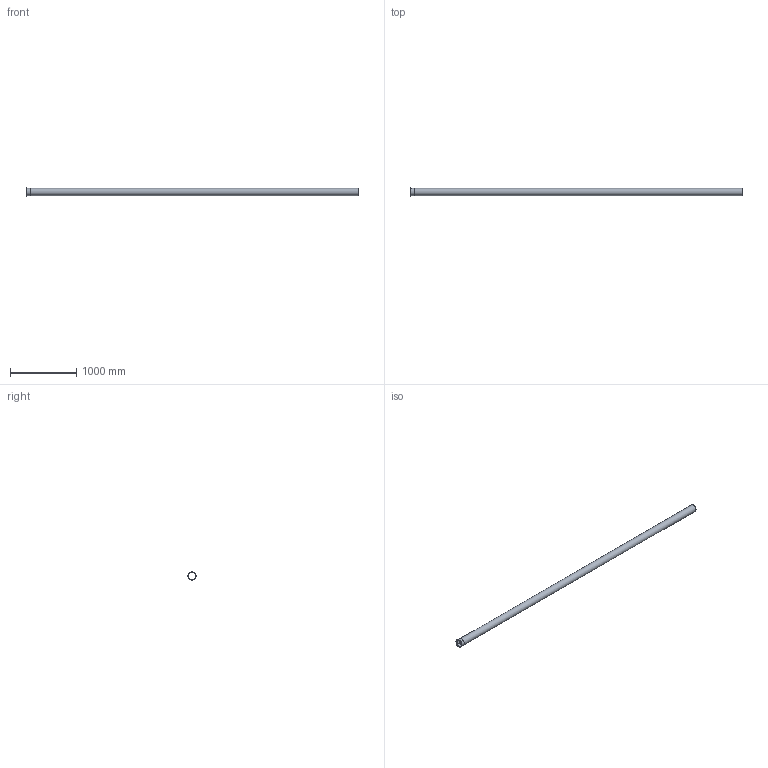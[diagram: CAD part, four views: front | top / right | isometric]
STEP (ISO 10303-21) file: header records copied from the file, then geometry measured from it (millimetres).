
FILE_DESCRIPTION((''),'2;1');
FILE_NAME('I:\WATTS\3D_CAD\3D_CAD_Models\Blucher_Drains\P_StraightPipe\WebsiteFiles\3D\STEP\P4-16.4-316.stp','2009-12-02T14:23:35',('menesek'),(''),'Autodesk Inventor 2010','Autodesk Inventor 2010','');
FILE_SCHEMA(('AUTOMOTIVE_DESIGN { 1 0 10303 214 1 1 1 1 }'));
Length unit declared in the file: inch
Products named in the file (1): P4-16.4-316
Bounding box: 5000 x 122.94 x 122.94 mm (x, y, z)
Volume: 1766258.6 mm3; surface area: 3429294.8 mm2
Topology: 1 solids, 1 shells, 109 faces, 285 edges, 190 vertices
Faces by surface type: plane 59, bspline 34, cylinder 16
Full cylindrical faces by diameter (mm): 107.95 x1, 109.982 x1, 111.252 x2, 122.936 x1
Entity records: 13900 total; most frequent: CARTESIAN_POINT 11522, ORIENTED_EDGE 548, DIRECTION 356, EDGE_CURVE 274, VERTEX_POINT 186, EDGE_LOOP 128, AXIS2_PLACEMENT_3D 120, VECTOR 116
